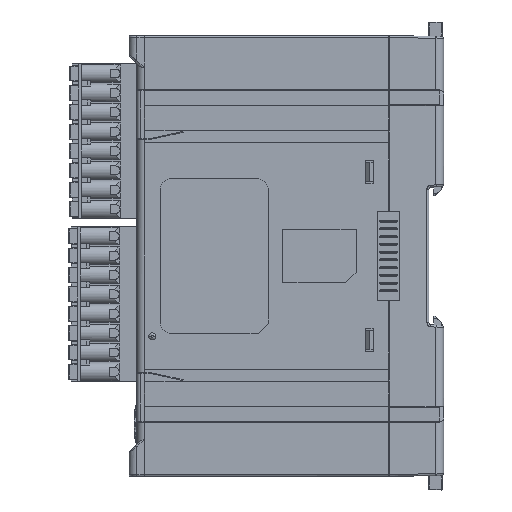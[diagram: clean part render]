
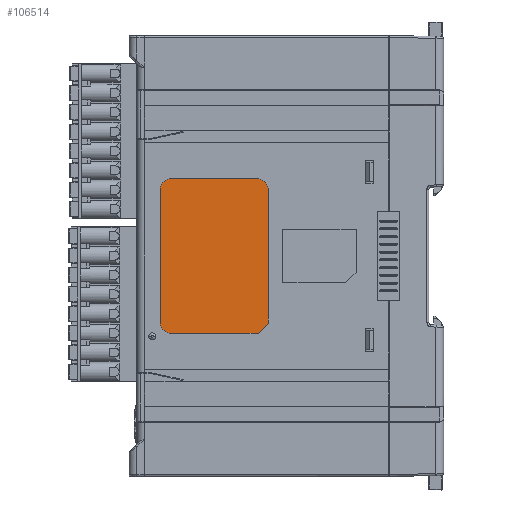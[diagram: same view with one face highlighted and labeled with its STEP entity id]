
A CAD part, left-side view. The second image highlights one B-rep face of the part: STEP entity #106514.
In plain terms, the highlighted planar face has unit normal (-1, 0, 0).
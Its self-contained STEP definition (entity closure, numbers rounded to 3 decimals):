
#23503=DIRECTION('',(0.,-1.,0.));
#23504=VECTOR('',#23503,22.);
#23505=CARTESIAN_POINT('',(-14.8,69.,20.));
#23506=LINE('',#23505,#23504);
#23507=CARTESIAN_POINT('',(-14.8,47.,17.));
#23508=DIRECTION('',(1.,0.,0.));
#23509=DIRECTION('',(0.,0.,1.));
#23510=AXIS2_PLACEMENT_3D('',#23507,#23508,#23509);
#23512=DIRECTION('',(0.,0.,-1.));
#23513=VECTOR('',#23512,34.3);
#23514=CARTESIAN_POINT('',(-14.8,44.,17.));
#23515=LINE('',#23514,#23513);
#23516=DIRECTION('',(0.,0.707,-0.707));
#23517=VECTOR('',#23516,3.818);
#23518=CARTESIAN_POINT('',(-14.8,44.,-17.3));
#23519=LINE('',#23518,#23517);
#23520=DIRECTION('',(0.,1.,0.));
#23521=VECTOR('',#23520,22.3);
#23522=CARTESIAN_POINT('',(-14.8,46.7,-20.));
#23523=LINE('',#23522,#23521);
#23524=CARTESIAN_POINT('',(-14.8,69.,-17.));
#23525=DIRECTION('',(1.,0.,0.));
#23526=DIRECTION('',(0.,0.,-1.));
#23527=AXIS2_PLACEMENT_3D('',#23524,#23525,#23526);
#23529=DIRECTION('',(0.,0.,1.));
#23530=VECTOR('',#23529,34.);
#23531=CARTESIAN_POINT('',(-14.8,72.,-17.));
#23532=LINE('',#23531,#23530);
#23533=CARTESIAN_POINT('',(-14.8,69.,17.));
#23534=DIRECTION('',(1.,0.,0.));
#23535=DIRECTION('',(0.,1.,0.));
#23536=AXIS2_PLACEMENT_3D('',#23533,#23534,#23535);
#52636=CARTESIAN_POINT('',(-14.8,44.,17.));
#52637=VERTEX_POINT('',#52636);
#52638=CARTESIAN_POINT('',(-14.8,44.,-17.3));
#52639=VERTEX_POINT('',#52638);
#52640=CARTESIAN_POINT('',(-14.8,47.,20.));
#52641=VERTEX_POINT('',#52640);
#52642=CARTESIAN_POINT('',(-14.8,69.,20.));
#52643=VERTEX_POINT('',#52642);
#52644=CARTESIAN_POINT('',(-14.8,72.,17.));
#52645=VERTEX_POINT('',#52644);
#52646=CARTESIAN_POINT('',(-14.8,72.,-17.));
#52647=VERTEX_POINT('',#52646);
#52648=CARTESIAN_POINT('',(-14.8,69.,-20.));
#52649=VERTEX_POINT('',#52648);
#52650=CARTESIAN_POINT('',(-14.8,46.7,-20.));
#52651=VERTEX_POINT('',#52650);
#106498=CARTESIAN_POINT('',(-14.8,80.,0.));
#106499=DIRECTION('',(-1.,0.,0.));
#106500=DIRECTION('',(0.,1.,0.));
#106501=AXIS2_PLACEMENT_3D('',#106498,#106499,#106500);
#106502=PLANE('',#106501);
#106503=ORIENTED_EDGE('',*,*,#106402,.T.);
#106504=ORIENTED_EDGE('',*,*,#106381,.T.);
#106505=ORIENTED_EDGE('',*,*,#106360,.T.);
#106507=ORIENTED_EDGE('',*,*,#106506,.T.);
#106508=ORIENTED_EDGE('',*,*,#106483,.T.);
#106509=ORIENTED_EDGE('',*,*,#106465,.T.);
#106510=ORIENTED_EDGE('',*,*,#106444,.T.);
#106511=ORIENTED_EDGE('',*,*,#106423,.T.);
#106512=EDGE_LOOP('',(#106503,#106504,#106505,#106507,#106508,#106509,#106510,
#106511));
#106513=FACE_OUTER_BOUND('',#106512,.F.);
#106514=ADVANCED_FACE('',(#106513),#106502,.T.);
#23511=CIRCLE('',#23510,3.);
#23528=CIRCLE('',#23527,3.);
#23537=CIRCLE('',#23536,3.);
#106360=EDGE_CURVE('',#52637,#52639,#23515,.T.);
#106381=EDGE_CURVE('',#52641,#52637,#23511,.T.);
#106402=EDGE_CURVE('',#52643,#52641,#23506,.T.);
#106423=EDGE_CURVE('',#52645,#52643,#23537,.T.);
#106444=EDGE_CURVE('',#52647,#52645,#23532,.T.);
#106465=EDGE_CURVE('',#52649,#52647,#23528,.T.);
#106483=EDGE_CURVE('',#52651,#52649,#23523,.T.);
#106506=EDGE_CURVE('',#52639,#52651,#23519,.T.);
